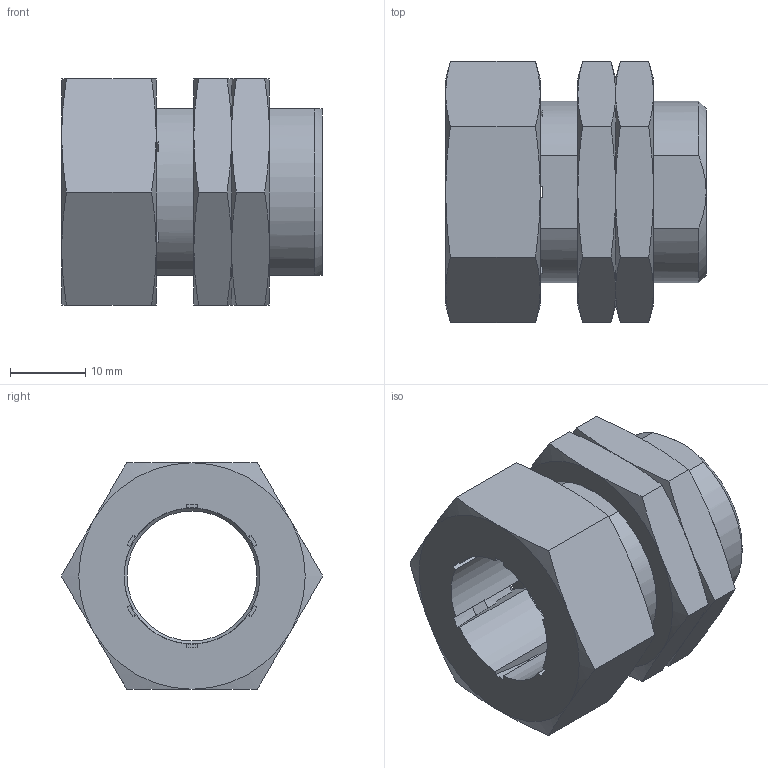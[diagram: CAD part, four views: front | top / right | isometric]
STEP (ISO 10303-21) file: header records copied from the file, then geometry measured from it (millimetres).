
FILE_DESCRIPTION(/* description */ ('STEP AP203'),/* implementation_level */ '2;1');
FILE_NAME(/* name */ 'E12739',/* time_stamp */ '2024-12-13T09:10:05+01:00',/* author */ ('License CC BY-ND 4.0'),/* organization */ ('CADENAS'),/* preprocessor_version */ 'ST-DEVELOPER v19.3',/* originating_system */ 'PARTsolutions',/* authorisation */ ' ');
FILE_SCHEMA (('CONFIG_CONTROL_DESIGN'));
Length unit declared in the file: millimetre
Products named in the file (3): E12739; P_MZ_Z_1800_P1; P_MZ_Z_1800_P2
Assembly tree (3 placements, depth 2):
  E12739
    P_MZ_Z_1800_P1
    P_MZ_Z_1800_P2  x2
Bounding box: 34.5 x 34.64 x 30 mm (x, y, z)
Volume: 13571.8 mm3; surface area: 10239 mm2
Topology: 3 solids, 3 shells, 127 faces, 378 edges, 236 vertices
Faces by surface type: cone 59, plane 47, cylinder 20, torus 1
Full cylindrical faces by diameter (mm): 17.2 x1, 18 x1, 22.376 x2, 22.41 x1, 24.5 x1
Entity records: 3791 total; most frequent: CARTESIAN_POINT 974, ORIENTED_EDGE 626, DIRECTION 520, EDGE_CURVE 313, AXIS2_PLACEMENT_3D 215, VERTEX_POINT 205, EDGE_LOOP 124, FACE_BOUND 124
